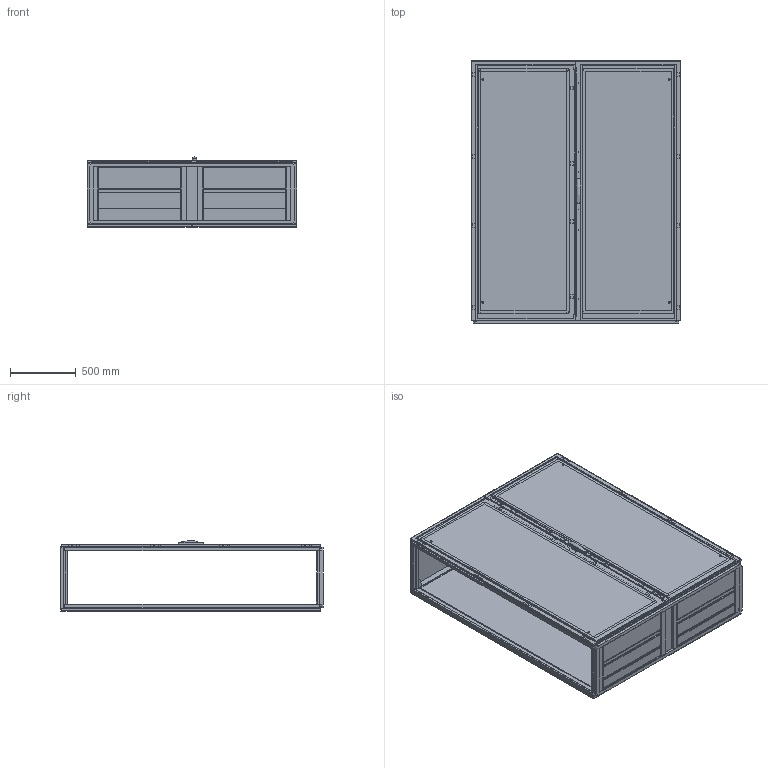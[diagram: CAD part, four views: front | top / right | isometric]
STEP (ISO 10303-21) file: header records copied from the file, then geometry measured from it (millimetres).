
FILE_DESCRIPTION(/* description */ ('STEP AP203'),/* implementation_level */ '2;1');
FILE_NAME(/* name */ 'MCD20165R5(0)',/* time_stamp */ '2024-02-27T14:47:40+01:00',/* author */ ('License CC BY-ND 4.0'),/* organization */ ('CADENAS'),/* preprocessor_version */ 'ST-DEVELOPER v19.3',/* originating_system */ 'PARTsolutions',/* authorisation */ ' ');
FILE_SCHEMA (('CONFIG_CONTROL_DESIGN'));
Length unit declared in the file: millimetre
Products named in the file (29): MCD20165R5(0); MCD20165R5_Frame; CRPK16(0)_Rear Panel Mounting Kit; CRP2016R5(0)_Rear Panel Left; CRP2016R5(0)_Rear Panel Right; CRPK16(0)_Rear Panel Bracket; DNMK02(0)_Hinge Right; DN2008RR5(0)_Right door; LSSDXXXX(0)_Lock; LSSD2000(0)_Espagnolette Top; LSSD2000(0)_Espagnolette Bottom; DNMK02(0)_Hinge Left; DN2008LR5(0)_Left door; LSEL2000(0)_Left Door Espagnolette; DNMK01(0)_Rod catches; CCR165R5(0)_Roof plate; LSSD2000(0)_Lock Catch; LSELXX16X(0)_Left Door Espagnolette; MPA06(0)_Mounting Plate Brackets 1; MP2016(0)_P1; MPA06(0)_Mounting Plate Brackets 2; MPA06(0)_Mounting Plate Brackets 3; MPA06(0)_Mounting Plate Brackets 4; Bottom Plate Profile_1600x500(0); MCD16XX05(0)_Mounting Profile; MCD16XX05(0)_ Middle Top Profile; CBPW1600D200(0)_Bottom Plate 3; CBP160(0)_Bottom Plate 1; CBP160(0)_Bottom Plate 2
Assembly tree (54 placements, depth 2):
  MCD20165R5(0)
    MCD20165R5_Frame
    CRPK16(0)_Rear Panel Mounting Kit  x8
    CRP2016R5(0)_Rear Panel Left
    CRP2016R5(0)_Rear Panel Right
    CRPK16(0)_Rear Panel Bracket  x2
    DNMK02(0)_Hinge Right  x4
    DN2008RR5(0)_Right door
    LSSDXXXX(0)_Lock
    LSSD2000(0)_Espagnolette Top
    LSSD2000(0)_Espagnolette Bottom
    DNMK02(0)_Hinge Left  x4
    DN2008LR5(0)_Left door
    LSEL2000(0)_Left Door Espagnolette
    DNMK01(0)_Rod catches  x4
    CCR165R5(0)_Roof plate
    LSSD2000(0)_Lock Catch  x2
    LSELXX16X(0)_Left Door Espagnolette  x2
    MPA06(0)_Mounting Plate Brackets 1  x3
    MP2016(0)_P1
    MPA06(0)_Mounting Plate Brackets 2  x3
    MPA06(0)_Mounting Plate Brackets 3
    MPA06(0)_Mounting Plate Brackets 4
    Bottom Plate Profile_1600x500(0)
    MCD16XX05(0)_Mounting Profile
    MCD16XX05(0)_ Middle Top Profile
    CBPW1600D200(0)_Bottom Plate 3  x2
    CBP160(0)_Bottom Plate 1  x2
    CBP160(0)_Bottom Plate 2  x2
Bounding box: 1599 x 2003.5 x 534.9 mm (x, y, z)
Volume: 49594662.9 mm3; surface area: 27673502.5 mm2
Topology: 54 solids, 54 shells, 2386 faces, 6446 edges, 4257 vertices
Faces by surface type: plane 2111, cylinder 208, cone 64, sphere 2, torus 1
Full cylindrical faces by diameter (mm): 2.55 x2, 5 x26, 5.2 x2, 5.8 x2, 6 x6, 6.5 x2, 6.7 x4, 7 x6, 7.4 x4, 8 x21, 9 x3, 10 x12, 12.5 x1, 13 x3, 14 x7, 14.12 x1, 15 x4
Entity records: 53923 total; most frequent: CARTESIAN_POINT 9232, ORIENTED_EDGE 8788, DIRECTION 8269, EDGE_CURVE 4394, LINE 3955, VECTOR 3955, VERTEX_POINT 2970, AXIS2_PLACEMENT_3D 2157
